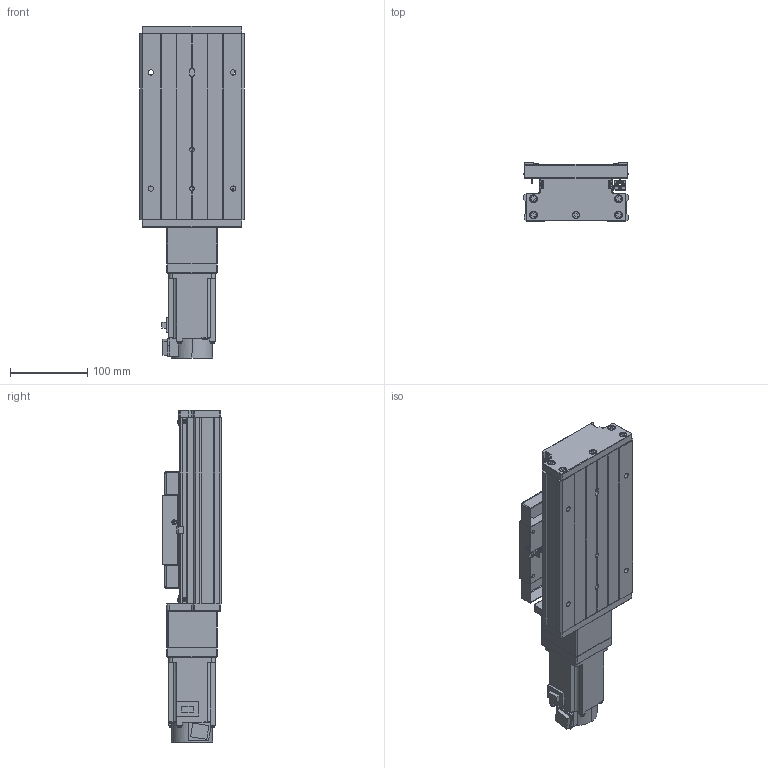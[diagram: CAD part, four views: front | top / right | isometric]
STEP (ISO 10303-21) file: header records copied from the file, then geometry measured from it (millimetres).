
FILE_DESCRIPTION (( 'STEP AP203' ), '1' );
FILE_NAME ('CTH130-50-BC-M40-C4.step', '2023-06-30T02:33:21', ( '微软用户' ), ( '微软中国' ), 'SwSTEP 2.0', 'SolidWorks 2020', '' );
FILE_SCHEMA (( 'CONFIG_CONTROL_DESIGN' ));
Length unit declared in the file: millimetre
Products named in the file (21): CTHA86-027-1; GTH14-005; GBT77-2000 M3×3; GBT 70.3-M3℅8; GB1155-6X6; CTH130-031; HG-KN43J-S100; GBT70.1 M5℅16; GBT 70.2-M3¡Á5_M3¡Á6; CTH130-50-BC-M40-C4; GTH14-001_50; CTHA60-017; す晦芛蹟隊 M3℅5; CTH130-002_GTH14-002; EE_SX911P_R; CTHA86-006-1_M40; GB T308.1-2013-6.35; CTHA60-016; CTHA86-013; GTH14-004; GBT 70.1-M3℅5
Assembly tree (59 placements, depth 2):
  CTH130-50-BC-M40-C4
    GTH14-001_50
    CTH130-002_GTH14-002
    GB T308.1-2013-6.35  x2
    GTH14-004
    GTH14-005
    GB1155-6X6  x2
    GBT70.1 M5℅16  x10
    CTHA60-017  x3
    EE_SX911P_R  x3
    CTHA60-016  x2
    GBT 70.1-M3℅5  x6
    GBT77-2000 M3×3  x6
    CTH130-031
    GBT 70.2-M3¡Á5_M3¡Á6  x8
    す晦芛蹟隊 M3℅5  x6
    CTHA86-006-1_M40
    CTHA86-013
    CTHA86-027-1
    GBT 70.3-M3℅8  x2
    HG-KN43J-S100
Bounding box: 135 x 76 x 428.7 mm (x, y, z)
Volume: 1612711.7 mm3; surface area: 399975.7 mm2
Topology: 62 solids, 62 shells, 2354 faces, 5621 edges, 3479 vertices
Faces by surface type: plane 1301, cylinder 602, cone 287, torus 120, sphere 24, bspline 20
Entity records: 42888 total; most frequent: CARTESIAN_POINT 9679, DIRECTION 6171, ORIENTED_EDGE 6142, EDGE_CURVE 3071, AXIS2_PLACEMENT_3D 2067, VECTOR 2037, LINE 2037, VERTEX_POINT 1939
